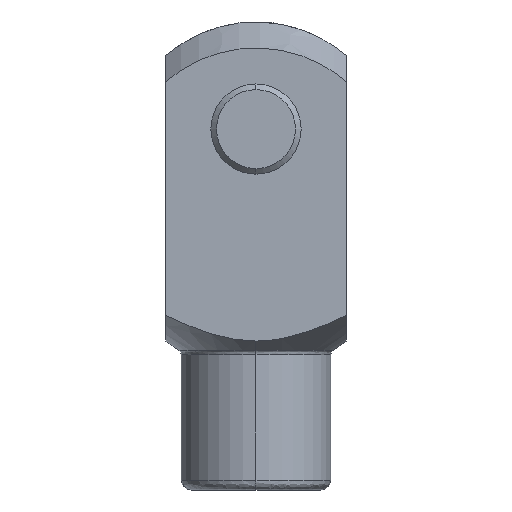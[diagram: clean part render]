
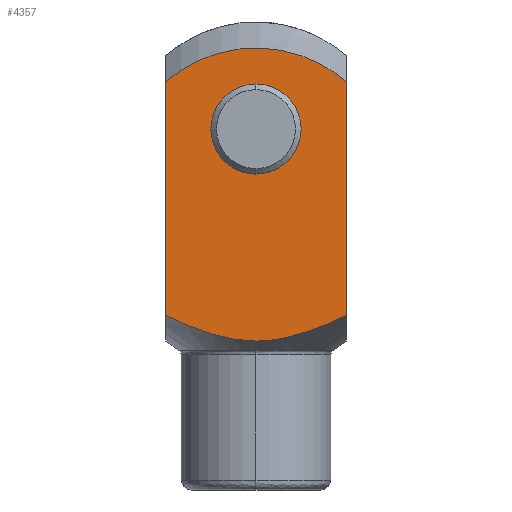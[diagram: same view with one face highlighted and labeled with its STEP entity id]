
A CAD part, left-side view. The second image highlights one B-rep face of the part: STEP entity #4357.
In plain terms, the highlighted planar face has unit normal (-1, 0, 0).
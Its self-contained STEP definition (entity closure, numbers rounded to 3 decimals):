
#49 = CARTESIAN_POINT ( 'NONE',  ( -16., -16., 32.998 ) ) ;
#93 = CARTESIAN_POINT ( 'NONE',  ( -16., 6.383, 82.775 ) ) ;
#144 = DIRECTION ( 'NONE',  ( 1., 0., 0. ) ) ;
#156 = CARTESIAN_POINT ( 'NONE',  ( -16., 14.738, 32.38 ) ) ;
#207 = CARTESIAN_POINT ( 'NONE',  ( -16., 0., 28.406 ) ) ;
#445 = CIRCLE ( 'NONE', #6229, 8. ) ;
#453 = CARTESIAN_POINT ( 'NONE',  ( -16., -6.924, 29.371 ) ) ;
#562 = FACE_OUTER_BOUND ( 'NONE', #1298, .T. ) ;
#604 = ORIENTED_EDGE ( 'NONE', *, *, #2861, .F. ) ;
#685 = CARTESIAN_POINT ( 'NONE',  ( -16., 2.771, 28.533 ) ) ;
#694 = CARTESIAN_POINT ( 'NONE',  ( -16., 16., 74.381 ) ) ;
#712 = ORIENTED_EDGE ( 'NONE', *, *, #5490, .F. ) ;
#802 = VERTEX_POINT ( 'NONE', #5988 ) ;
#912 = EDGE_CURVE ( 'NONE', #1720, #2352, #5847, .T. ) ;
#918 = CARTESIAN_POINT ( 'NONE',  ( -16., -16., 32.998 ) ) ;
#1087 = CARTESIAN_POINT ( 'NONE',  ( -16., -16., 74.381 ) ) ;
#1088 = ORIENTED_EDGE ( 'NONE', *, *, #4433, .F. ) ;
#1124 = AXIS2_PLACEMENT_3D ( 'NONE', #3590, #144, #4549 ) ;
#1154 = CARTESIAN_POINT ( 'NONE',  ( -16., 4.844, 28.893 ) ) ;
#1158 = CIRCLE ( 'NONE', #4606, 8. ) ;
#1178 = CARTESIAN_POINT ( 'NONE',  ( -16., 0., 74. ) ) ;
#1206 = CARTESIAN_POINT ( 'NONE',  ( -16., 6.901, 29.385 ) ) ;
#1298 = EDGE_LOOP ( 'NONE', ( #1088, #1881, #712, #604, #5721 ) ) ;
#1486 = CARTESIAN_POINT ( 'NONE',  ( -16., 16., 85. ) ) ;
#1542 = CARTESIAN_POINT ( 'NONE',  ( -16., 0., 28.406 ) ) ;
#1554 = VERTEX_POINT ( 'NONE', #1178 ) ;
#1720 = VERTEX_POINT ( 'NONE', #694 ) ;
#1881 = ORIENTED_EDGE ( 'NONE', *, *, #912, .T. ) ;
#1974 = B_SPLINE_CURVE_WITH_KNOTS ( 'NONE', 3,
 ( #207, #4046, #685, #1154, #4534, #1206, #5454, #5546, #2136, #4072, #156, #3169 ),
 .UNSPECIFIED., .F., .F.,
 ( 4, 2, 2, 2, 2, 4 ),
 ( 0.017, 0.021, 0.023, 0.025, 0.029, 0.033 ),
 .UNSPECIFIED. ) ;
#2081 = DIRECTION ( 'NONE',  ( 0., 0., 1. ) ) ;
#2127 = EDGE_CURVE ( 'NONE', #1554, #802, #445, .T. ) ;
#2136 = CARTESIAN_POINT ( 'NONE',  ( -16., 10.885, 30.709 ) ) ;
#2161 = CARTESIAN_POINT ( 'NONE',  ( -16., 0., 66. ) ) ;
#2188 = CARTESIAN_POINT ( 'NONE',  ( -16., -16., 85. ) ) ;
#2259 = CARTESIAN_POINT ( 'NONE',  ( -16., 16., 32.998 ) ) ;
#2352 = VERTEX_POINT ( 'NONE', #2259 ) ;
#2428 = ORIENTED_EDGE ( 'NONE', *, *, #5337, .F. ) ;
#2448 = CARTESIAN_POINT ( 'NONE',  ( -16., -5.566, 29.02 ) ) ;
#2635 = DIRECTION ( 'NONE',  ( -1., 0., 0. ) ) ;
#2688 = B_SPLINE_CURVE_WITH_KNOTS ( 'NONE', 3,
 ( #918, #5271, #5756, #3363, #5309, #453, #2448, #5800, #5856, #1542 ),
 .UNSPECIFIED., .F., .F.,
 ( 4, 2, 2, 2, 4 ),
 ( 0., 0.004, 0.008, 0.013, 0.017 ),
 .UNSPECIFIED. ) ;
#2707 = DIRECTION ( 'NONE',  ( -1., 0., 0. ) ) ;
#2725 = LINE ( 'NONE', #2188, #4889 ) ;
#2731 = CARTESIAN_POINT ( 'NONE',  ( -16., 0., 28.406 ) ) ;
#2861 = EDGE_CURVE ( 'NONE', #5774, #4810, #2688, .T. ) ;
#3055 = CARTESIAN_POINT ( 'NONE',  ( -16., -6.383, 82.775 ) ) ;
#3152 = PLANE ( 'NONE',  #1124 ) ;
#3169 = CARTESIAN_POINT ( 'NONE',  ( -16., 16., 32.998 ) ) ;
#3363 = CARTESIAN_POINT ( 'NONE',  ( -16., -10.89, 30.711 ) ) ;
#3468 = VERTEX_POINT ( 'NONE', #4319 ) ;
#3515 = CARTESIAN_POINT ( 'NONE',  ( -16., 16., 74.381 ) ) ;
#3590 = CARTESIAN_POINT ( 'NONE',  ( -16., 16., 85. ) ) ;
#3626 = CARTESIAN_POINT ( 'NONE',  ( -16., 0., 66. ) ) ;
#4046 = CARTESIAN_POINT ( 'NONE',  ( -16., 1.387, 28.406 ) ) ;
#4072 = CARTESIAN_POINT ( 'NONE',  ( -16., 13.465, 31.792 ) ) ;
#4319 = CARTESIAN_POINT ( 'NONE',  ( -16., -16., 74.381 ) ) ;
#4329 = EDGE_CURVE ( 'NONE', #3468, #5774, #2725, .T. ) ;
#4357 = ADVANCED_FACE ( 'NONE', ( #6265, #562 ), #3152, .F. ) ;
#4433 = EDGE_CURVE ( 'NONE', #1720, #3468, #4828, .T. ) ;
#4534 = CARTESIAN_POINT ( 'NONE',  ( -16., 5.536, 29.042 ) ) ;
#4549 = DIRECTION ( 'NONE',  ( 0., 0., -1. ) ) ;
#4587 = VECTOR ( 'NONE', #4864, 1000. ) ;
#4606 = AXIS2_PLACEMENT_3D ( 'NONE', #2161, #2635, #2081 ) ;
#4607 = DIRECTION ( 'NONE',  ( 0., 0., 1. ) ) ;
#4640 = EDGE_LOOP ( 'NONE', ( #6137, #2428 ) ) ;
#4810 = VERTEX_POINT ( 'NONE', #2731 ) ;
#4828 =( BOUNDED_CURVE ( )  B_SPLINE_CURVE ( 3, ( #3515, #93, #3055, #1087 ),
 .UNSPECIFIED., .F., .F. ) 
 B_SPLINE_CURVE_WITH_KNOTS ( ( 4, 4 ),
 ( 0., 0.035 ),
 .UNSPECIFIED. ) 
 CURVE ( )  GEOMETRIC_REPRESENTATION_ITEM ( )  RATIONAL_B_SPLINE_CURVE ( ( 1., 0.836, 0.836, 1. ) ) 
 REPRESENTATION_ITEM ( '' )  );
#4864 = DIRECTION ( 'NONE',  ( 0., 0., -1. ) ) ;
#4889 = VECTOR ( 'NONE', #6036, 1000. ) ;
#5271 = CARTESIAN_POINT ( 'NONE',  ( -16., -14.739, 32.38 ) ) ;
#5309 = CARTESIAN_POINT ( 'NONE',  ( -16., -9.585, 30.217 ) ) ;
#5337 = EDGE_CURVE ( 'NONE', #802, #1554, #1158, .T. ) ;
#5454 = CARTESIAN_POINT ( 'NONE',  ( -16., 7.575, 29.579 ) ) ;
#5490 = EDGE_CURVE ( 'NONE', #4810, #2352, #1974, .T. ) ;
#5546 = CARTESIAN_POINT ( 'NONE',  ( -16., 9.577, 30.214 ) ) ;
#5721 = ORIENTED_EDGE ( 'NONE', *, *, #4329, .F. ) ;
#5756 = CARTESIAN_POINT ( 'NONE',  ( -16., -13.467, 31.793 ) ) ;
#5774 = VERTEX_POINT ( 'NONE', #49 ) ;
#5800 = CARTESIAN_POINT ( 'NONE',  ( -16., -2.779, 28.533 ) ) ;
#5847 = LINE ( 'NONE', #1486, #4587 ) ;
#5856 = CARTESIAN_POINT ( 'NONE',  ( -16., -1.388, 28.406 ) ) ;
#5988 = CARTESIAN_POINT ( 'NONE',  ( -16., 0., 58. ) ) ;
#6036 = DIRECTION ( 'NONE',  ( 0., 0., -1. ) ) ;
#6137 = ORIENTED_EDGE ( 'NONE', *, *, #2127, .F. ) ;
#6229 = AXIS2_PLACEMENT_3D ( 'NONE', #3626, #2707, #4607 ) ;
#6265 = FACE_BOUND ( 'NONE', #4640, .T. ) ;
